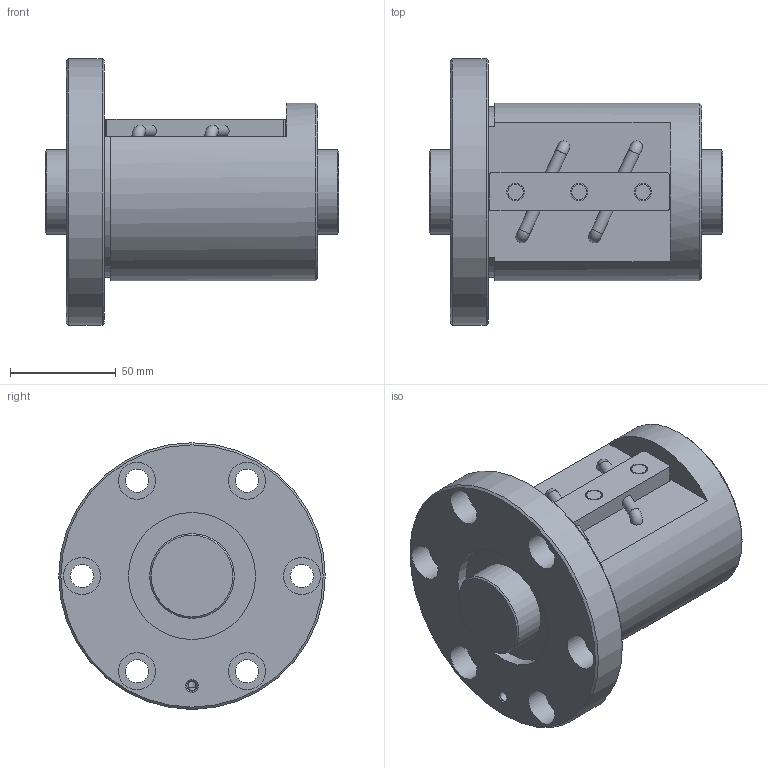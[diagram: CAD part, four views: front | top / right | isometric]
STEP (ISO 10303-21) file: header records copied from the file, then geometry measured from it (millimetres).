
FILE_DESCRIPTION(/* description */ ('STEP AP203'),/* implementation_level */ '2;1');
FILE_NAME(/* name */ 'BNF4012V-5RRG1+139LC0_000_rev',/* time_stamp */ '2024-08-06T08:41:23+02:00',/* author */ ('License CC BY-ND 4.0'),/* organization */ ('CADENAS'),/* preprocessor_version */ 'ST-DEVELOPER v19.3',/* originating_system */ 'PARTsolutions',/* authorisation */ ' ');
FILE_SCHEMA (('CONFIG_CONTROL_DESIGN'));
Length unit declared in the file: millimetre
Products named in the file (3): BNF4012V-5RRG1+139LC0_000_rev; BNF 4012-5RR000 Shaft; BNF 4012-5RR Nut
Assembly tree (2 placements, depth 2):
  BNF4012V-5RRG1+139LC0_000_rev
    BNF 4012-5RR000 Shaft
    BNF 4012-5RR Nut
Bounding box: 139 x 126 x 126 mm (x, y, z)
Volume: 721398 mm3; surface area: 100008.3 mm2
Topology: 2 solids, 2 shells, 77 faces, 168 edges, 110 vertices
Faces by surface type: cylinder 37, plane 29, cone 7, torus 4
Full cylindrical faces by diameter (mm): 4.5 x2, 4.917 x1, 5.598 x4, 7.2 x3, 8.2 x3, 11 x6, 17.5 x6, 40 x2, 60 x2, 84 x1, 126 x1
Entity records: 1943 total; most frequent: DIRECTION 348, CARTESIAN_POINT 324, ORIENTED_EDGE 220, AXIS2_PLACEMENT_3D 162, EDGE_LOOP 160, FACE_BOUND 160, EDGE_CURVE 110, VERTEX_POINT 96
